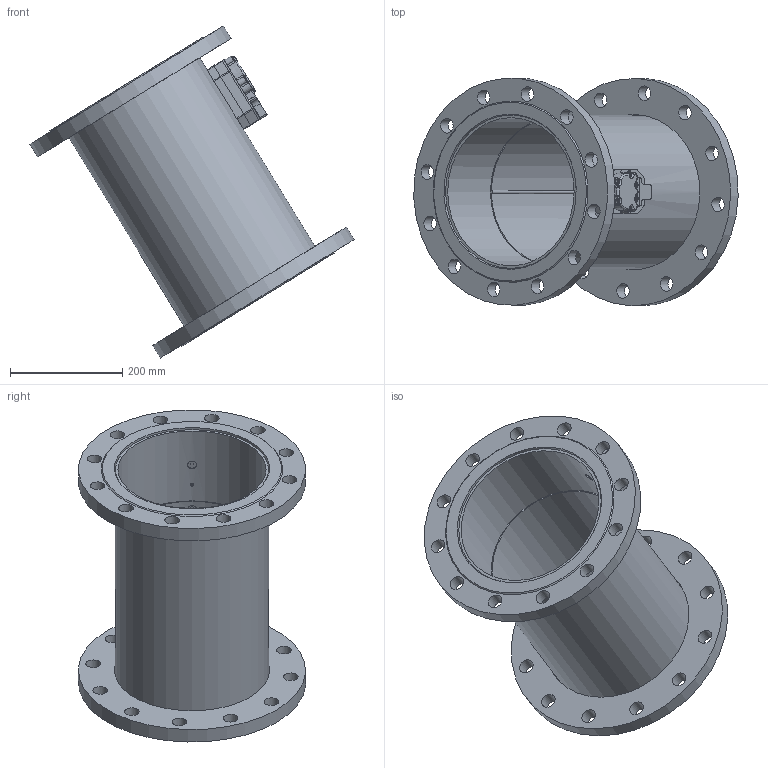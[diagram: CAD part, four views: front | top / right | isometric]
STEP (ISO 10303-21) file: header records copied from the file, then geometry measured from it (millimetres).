
FILE_DESCRIPTION( ( 'Unknown' ), '1' );
FILE_NAME( 'H:/440 pour vente_mai_2013/step_2/DN250_PN16_inox_450mm_rempli.stp', 'Unknown', ( 'Unknown' ), ( 'Unknown' ), 'PSStep 15.0.49', 'Unknown', ' ' );
FILE_SCHEMA( ( 'AUTOMOTIVE_DESIGN { 1 0 10303 214 1 1 1 1 }' ) );
Length unit declared in the file: millimetre
Products named in the file (9): 440_tête_rempli; 0440P011_rempli; 0440P012_rempli; 0440P060_rempli; Assem1; 0440P202_rempli; 0440P225_rempli; 0440P241_rempli; 0440P261_rempli
Assembly tree (10 placements, depth 3):
  Assem1
    0440P202_rempli
    0440P225_rempli  x2
    0440P241_rempli
    0440P261_rempli  x2
    440_tête_rempli
      0440P011_rempli
      0440P012_rempli
      0440P060_rempli
Bounding box: 577.77 x 404.7 x 591.52 mm (x, y, z)
Volume: 5878536.2 mm3; surface area: 1263986.7 mm2
Topology: 9 solids, 14 shells, 284 faces, 723 edges, 459 vertices
Faces by surface type: cylinder 104, plane 79, cone 57, torus 29, bspline 15
Full cylindrical faces by diameter (mm): 2.2 x1, 2.459 x2, 2.5 x1, 3 x2, 3.242 x4, 4.1 x1, 5.03 x1, 6 x1, 6.2 x6, 6.917 x2, 10.2 x2, 16 x2, 20 x4, 26 x24, 264 x1, 273 x1, 276.5 x2, 405 x2
Entity records: 13734 total; most frequent: CARTESIAN_POINT 5540, DIRECTION 1305, ORIENTED_EDGE 1106, EDGE_CURVE 553, AXIS2_PLACEMENT_3D 550, VERTEX_POINT 385, EDGE_LOOP 378, FACE_OUTER_BOUND 305
